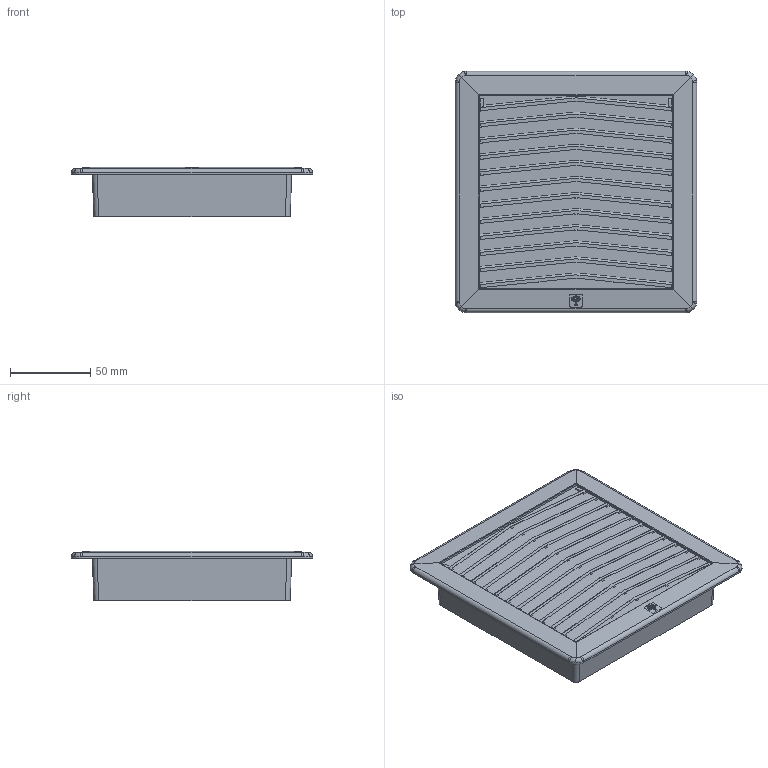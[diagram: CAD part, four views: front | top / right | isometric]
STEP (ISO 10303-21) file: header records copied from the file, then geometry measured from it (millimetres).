
FILE_DESCRIPTION (( 'STEP AP214' ), '1' );
FILE_NAME ('GF12KyG.STEP', '2023-10-16T10:00:02', ( '' ), ( '' ), 'SwSTEP 2.0', 'SolidWorks 2022', '' );
FILE_SCHEMA (( 'AUTOMOTIVE_DESIGN' ));
Length unit declared in the file: millimetre
Products named in the file (3): GF12B-7035_semplificata; GF12C-7035_Semplificato; GF12KyG
Assembly tree (2 placements, depth 2):
  GF12KyG
    GF12B-7035_semplificata
    GF12C-7035_Semplificato
Bounding box: 150 x 150 x 30.96 mm (x, y, z)
Volume: 474470 mm3; surface area: 70634.8 mm2
Topology: 13 solids, 14 shells, 330 faces, 826 edges, 541 vertices
Faces by surface type: plane 169, bspline 132, cylinder 29
Entity records: 12847 total; most frequent: CARTESIAN_POINT 5938, ORIENTED_EDGE 1652, DIRECTION 949, EDGE_CURVE 826, VERTEX_POINT 541, VECTOR 485, LINE 485, EDGE_LOOP 349
